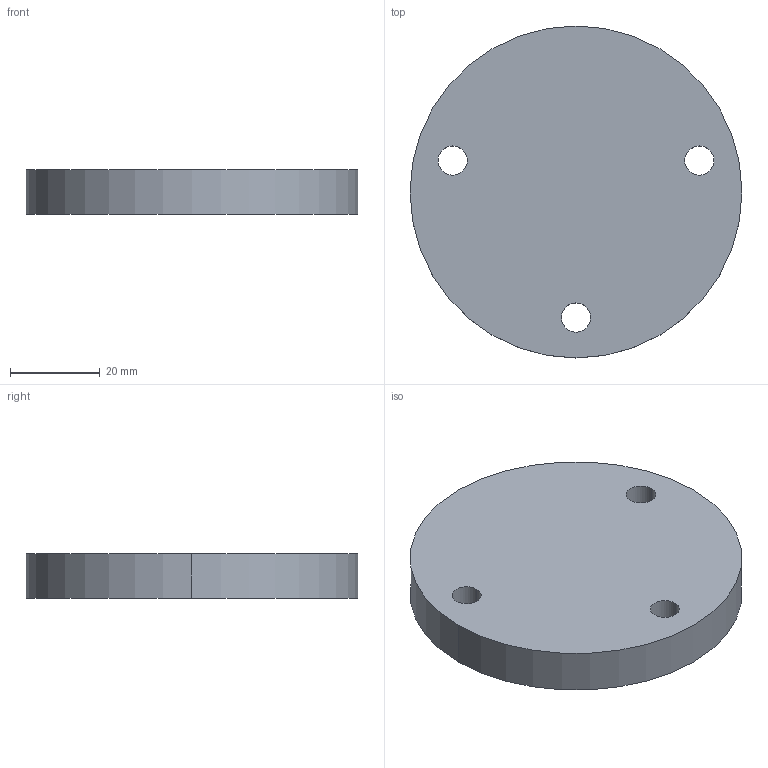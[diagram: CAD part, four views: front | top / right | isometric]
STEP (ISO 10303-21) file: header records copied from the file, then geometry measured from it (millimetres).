
FILE_DESCRIPTION (( 'STEP AP203' ), '1' );
FILE_NAME ('DFB-170S.STEP', '2013-11-29T06:24:28', ( 'SDS' ), ( 'SDS' ), 'SwSTEP 2.0', 'SolidWorks 2002296', '' );
FILE_SCHEMA (( 'CONFIG_CONTROL_DESIGN' ));
Length unit declared in the file: millimetre
Products named in the file (1): DFB-170S
Bounding box: 74 x 74 x 10 mm (x, y, z)
Volume: 42012.9 mm3; surface area: 11340 mm2
Topology: 1 solids, 1 shells, 10 faces, 24 edges, 16 vertices
Faces by surface type: cylinder 8, plane 2
Entity records: 393 total; most frequent: DIRECTION 62, CARTESIAN_POINT 51, ORIENTED_EDGE 48, AXIS2_PLACEMENT_3D 27, EDGE_CURVE 24, VERTEX_POINT 16, EDGE_LOOP 16, CIRCLE 16
